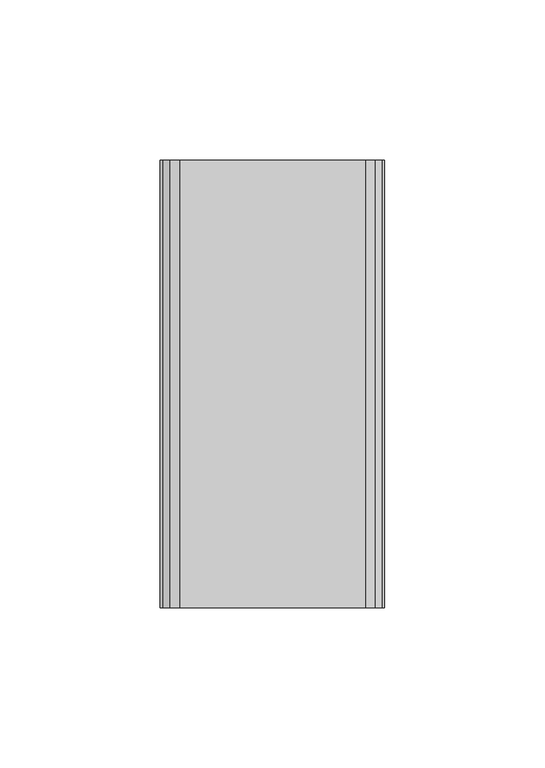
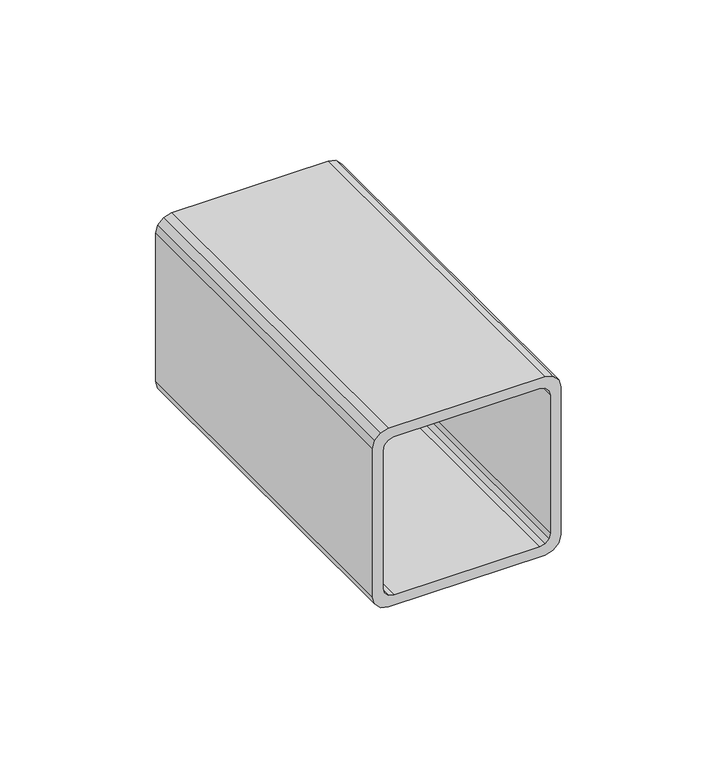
"""IFC4 building model written with IfcOpenShell, lengths in millimetres: beam geometry,  158976 :  158976."""

from ifc_helpers import new_model, si_unit, frame, origin, place, context, project, spatial, polyline, outline, extrude, source, transform, mapped, element, save


def beam_2da98b8c(model_context):
    return source(origin(), model_context, "Body", "SweptSolid", [
        extrude(outline(polyline([(6050.1992406, 22.8791579), (6047.1992406, 23.6830055), (6045.0030882, 25.8791579), (6044.1992406, 28.8791579), (6044.1992406, 86.8791579), (6045.0030882, 89.8791579), (6047.1992406, 92.0753103), (6050.1992406, 92.8791579), (6108.1992406, 92.8791579), (6111.1992406, 92.0753103), (6113.395393, 89.8791579), (6114.1992406, 86.8791579), (6114.1992406, 28.8791579), (6113.395393, 25.8791579), (6111.1992406, 23.6830055), (6108.1992406, 22.8791579), (6050.1992406, 22.8791579)]), holes=[polyline([(6106.1992406, 26.8791579), (6108.1992406, 27.4150563), (6109.6633422, 28.8791579), (6110.1992406, 30.8791579), (6110.1992406, 84.8791579), (6109.6633422, 86.8791579), (6108.1992406, 88.3432595), (6106.1992406, 88.8791579), (6052.1992406, 88.8791579), (6050.1992406, 88.3432595), (6048.735139, 86.8791579), (6048.1992406, 84.8791579), (6048.1992406, 30.8791579), (6048.735139, 28.8791579), (6050.1992406, 27.4150563), (6052.1992406, 26.8791579), (6106.1992406, 26.8791579)])]), frame((0.0, -114.45, 0.0), z_axis=(0.0, 1.0, 0.0), x_axis=(0.0, 0.0, 1.0)), (0.0, 0.0, 1.0), 139.45),
    ])


if __name__ == "__main__":
    model = new_model("IFC4")
    model_context = context("Model", 3, world=origin())
    ifc_project = project(units=[si_unit("LENGTHUNIT", "METRE", prefix="MILLI")], contexts=[model_context])
    site = spatial("IfcSite", under=ifc_project)
    building = spatial("IfcBuilding", under=site)
    placement = place(None, origin())
    beam_shape = beam_2da98b8c(model_context)
    element("IfcBeam", 1, ObjectType=" 158976 :  158976", at=placement, inside=building, context=model_context, shape_type="MappedRepresentation", body=[
        mapped(beam_shape, transform((0.0, 0.0, 0.0), x_axis=(1.0, 0.0, 0.0), y_axis=(0.0, 1.0, 0.0), z_axis=(0.0, 0.0, 1.0))),
    ])
    save(model, "model.ifc")
